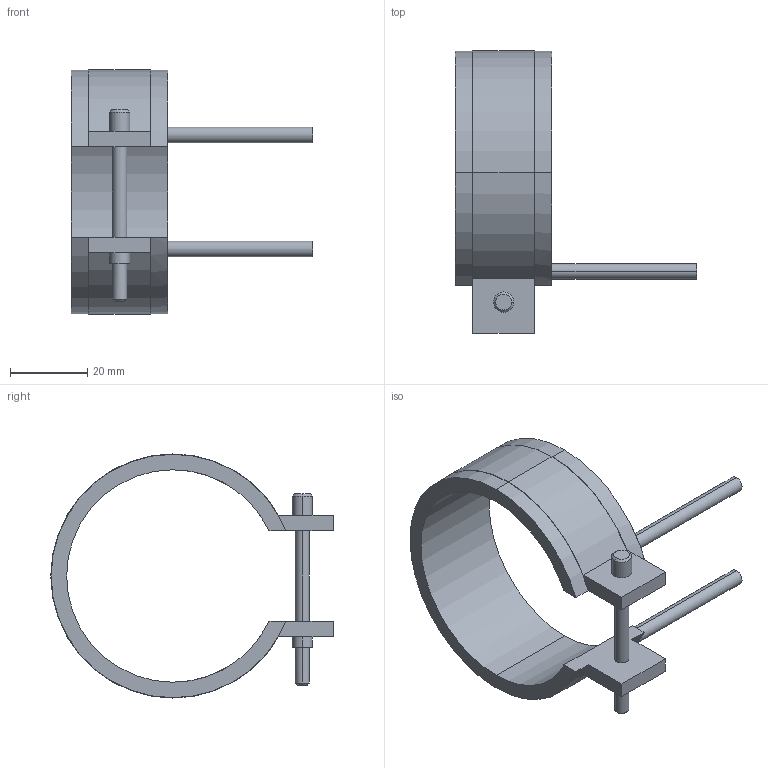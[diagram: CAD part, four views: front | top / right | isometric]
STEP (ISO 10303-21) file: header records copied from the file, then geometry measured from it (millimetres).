
FILE_DESCRIPTION(('CATIA V5 STEP Exchange'),'2;1');
FILE_NAME('C:\Users\Utente\Desktop\IO LAVORO\3D X SITO CF\X SITO\PLASTICA\RF2\14055025.stp','2021-04-01T09:36:58+00:00',('none'),('none'),'CATIA Version 5 Release 20 GA (IN-10)','CATIA V5 STEP AP203','none');
FILE_SCHEMA(('CONFIG_CONTROL_DESIGN'));
Length unit declared in the file: millimetre
Products named in the file (1): 14055025
Bounding box: 62.5 x 73.1 x 63.2 mm (x, y, z)
Volume: 19538 mm3; surface area: 12080.5 mm2
Topology: 1 solids, 1 shells, 45 faces, 116 edges, 76 vertices
Faces by surface type: cylinder 24, plane 17, cone 4
Entity records: 1400 total; most frequent: CARTESIAN_POINT 274, ORIENTED_EDGE 232, DIRECTION 196, EDGE_CURVE 116, AXIS2_PLACEMENT_3D 104, VERTEX_POINT 76, CIRCLE 62, VECTOR 52
